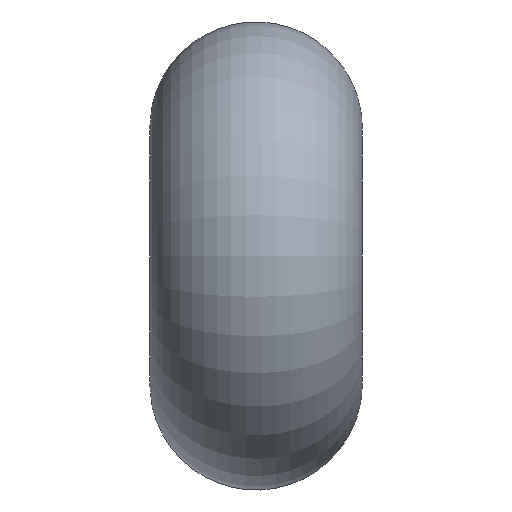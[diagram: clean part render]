
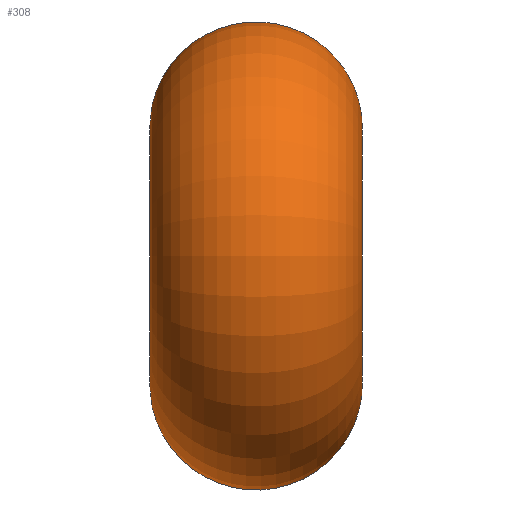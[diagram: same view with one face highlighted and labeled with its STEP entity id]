
A CAD part, left-side view. The second image highlights one B-rep face of the part: STEP entity #308.
In plain terms, the highlighted toroidal (fillet/blend) face has major radius 3 mm and minor radius 2.5 mm.
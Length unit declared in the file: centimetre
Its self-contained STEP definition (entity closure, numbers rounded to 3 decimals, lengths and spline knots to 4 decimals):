
#189=CARTESIAN_POINT('',(0.4631,0.0369,-0.2958));
#190=VERTEX_POINT('',#189);
#224=CARTESIAN_POINT('',(0.4631,0.0369,-0.2958));
#225=CARTESIAN_POINT('',(0.4564,0.0494,-0.3078));
#226=CARTESIAN_POINT('',(0.4442,0.0794,-0.3247));
#227=CARTESIAN_POINT('',(0.4269,0.1478,-0.3239));
#228=CARTESIAN_POINT('',(0.4234,0.2043,-0.271));
#229=CARTESIAN_POINT('',(0.442,0.2248,-0.1933));
#230=CARTESIAN_POINT('',(0.4637,0.2208,-0.145));
#231=CARTESIAN_POINT('',(0.4844,0.2059,-0.1147));
#232=CARTESIAN_POINT('',(0.4998,0.1899,-0.098));
#233=CARTESIAN_POINT('',(0.5139,0.1699,-0.0872));
#234=CARTESIAN_POINT('',(0.5255,0.1475,-0.0813));
#235=CARTESIAN_POINT('',(0.5344,0.1234,-0.0788));
#236=CARTESIAN_POINT('',(0.5403,0.0986,-0.0801));
#237=CARTESIAN_POINT('',(0.5426,0.0735,-0.087));
#238=CARTESIAN_POINT('',(0.5406,0.0429,-0.1051));
#239=CARTESIAN_POINT('',(0.5296,0.0129,-0.1414));
#240=CARTESIAN_POINT('',(0.5083,-0.0028,-0.1964));
#241=CARTESIAN_POINT('',(0.4845,0.0047,-0.2532));
#242=CARTESIAN_POINT('',(0.4698,0.0243,-0.2838));
#243=CARTESIAN_POINT('',(0.4631,0.0369,-0.2958));
#244=B_SPLINE_CURVE_WITH_KNOTS('',3,(#224,#225,#226,#227,#228,#229,#230,#231,#232,#233,#234,#235,#236,#237,#238,#239,#240,#241,#242,#243),.UNSPECIFIED.,.T.,.U.,(4,1,1,1,1,1,1,1,1,1,1,1,1,1,1,1,1,4),(0.4978,0.5689,0.6401,0.7823,0.8534,0.9245,0.9601,0.9956,1.0312,1.0668,1.1023,1.1379,1.1734,1.209,1.2801,1.3512,1.4224,1.4935),.UNSPECIFIED.);
#245=EDGE_CURVE('',#190,#190,#244,.T.);
#250=CARTESIAN_POINT('',(0.0,0.0525,0.0));
#251=DIRECTION('',(0.0,1.0,0.0));
#252=DIRECTION('',(1.0,0.0,0.0));
#253=AXIS2_PLACEMENT_3D('',#250,#251,#252);
#254=TOROIDAL_SURFACE('',#253,0.3,0.25);
#255=CARTESIAN_POINT('',(0.4631,0.0681,0.2958));
#256=VERTEX_POINT('',#255);
#257=CARTESIAN_POINT('',(0.4631,0.0681,0.2958));
#258=CARTESIAN_POINT('',(0.4564,0.0556,0.3078));
#259=CARTESIAN_POINT('',(0.4442,0.0254,0.3248));
#260=CARTESIAN_POINT('',(0.4313,-0.0256,0.324));
#261=CARTESIAN_POINT('',(0.4252,-0.0714,0.2977));
#262=CARTESIAN_POINT('',(0.4281,-0.1043,0.2513));
#263=CARTESIAN_POINT('',(0.4419,-0.1199,0.1934));
#264=CARTESIAN_POINT('',(0.4681,-0.115,0.135));
#265=CARTESIAN_POINT('',(0.4965,-0.0904,0.0998));
#266=CARTESIAN_POINT('',(0.5149,-0.063,0.0866));
#267=CARTESIAN_POINT('',(0.5262,-0.0405,0.0811));
#268=CARTESIAN_POINT('',(0.5344,-0.0184,0.0788));
#269=CARTESIAN_POINT('',(0.54,0.0054,0.08));
#270=CARTESIAN_POINT('',(0.5426,0.0305,0.0866));
#271=CARTESIAN_POINT('',(0.5415,0.0498,0.0976));
#272=CARTESIAN_POINT('',(0.5373,0.0712,0.116));
#273=CARTESIAN_POINT('',(0.5278,0.0934,0.1459));
#274=CARTESIAN_POINT('',(0.5083,0.1078,0.1964));
#275=CARTESIAN_POINT('',(0.4845,0.1003,0.2531));
#276=CARTESIAN_POINT('',(0.4698,0.0807,0.2838));
#277=CARTESIAN_POINT('',(0.4631,0.0681,0.2958));
#278=B_SPLINE_CURVE_WITH_KNOTS('',3,(#257,#258,#259,#260,#261,#262,#263,#264,#265,#266,#267,#268,#269,#270,#271,#272,#273,#274,#275,#276,#277),.UNSPECIFIED.,.T.,.U.,(4,1,1,1,1,1,1,1,1,1,1,1,1,1,1,1,1,1,4),(0.4978,0.5689,0.6401,0.7112,0.7823,0.8534,0.9245,0.9956,1.0401,1.0668,1.1023,1.1379,1.169,1.209,1.2268,1.2801,1.3512,1.4224,1.4935),.UNSPECIFIED.);
#279=EDGE_CURVE('',#256,#256,#278,.T.);
#280=ORIENTED_EDGE('',*,*,#279,.F.);
#281=EDGE_LOOP('',(#280));
#282=FACE_OUTER_BOUND('',#281,.T.);
#283=CARTESIAN_POINT('',(0.3,-0.1975,0.));
#284=VERTEX_POINT('',#283);
#285=CARTESIAN_POINT('',(0.0,-0.1975,0.0));
#286=DIRECTION('',(0.0,1.0,0.0));
#287=DIRECTION('',(-1.0,0.0,0.0));
#288=AXIS2_PLACEMENT_3D('',#285,#286,#287);
#289=CIRCLE('',#288,0.3);
#290=EDGE_CURVE('',#284,#284,#289,.T.);
#291=ORIENTED_EDGE('',*,*,#290,.T.);
#292=EDGE_LOOP('',(#291));
#293=FACE_BOUND('',#292,.T.);
#294=CARTESIAN_POINT('',(0.3,0.3025,0.));
#295=VERTEX_POINT('',#294);
#296=CARTESIAN_POINT('',(0.0,0.3025,0.0));
#297=DIRECTION('',(0.0,-1.0,0.0));
#298=DIRECTION('',(-1.0,0.0,0.0));
#299=AXIS2_PLACEMENT_3D('',#296,#297,#298);
#300=CIRCLE('',#299,0.3);
#301=EDGE_CURVE('',#295,#295,#300,.T.);
#302=ORIENTED_EDGE('',*,*,#301,.T.);
#303=EDGE_LOOP('',(#302));
#304=FACE_BOUND('',#303,.T.);
#305=ORIENTED_EDGE('',*,*,#245,.F.);
#306=EDGE_LOOP('',(#305));
#307=FACE_BOUND('',#306,.T.);
#308=ADVANCED_FACE('',(#282,#293,#304,#307),#254,.T.);
